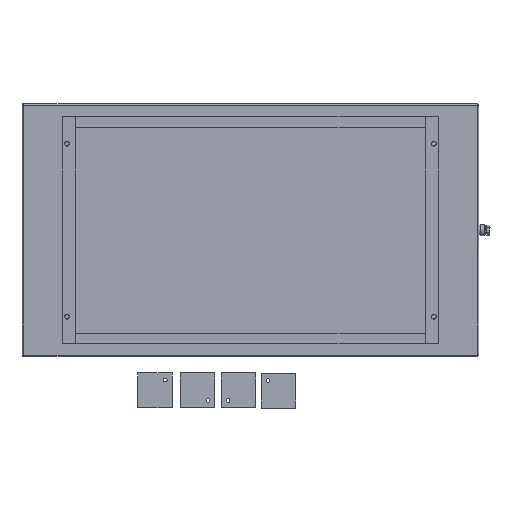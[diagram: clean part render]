
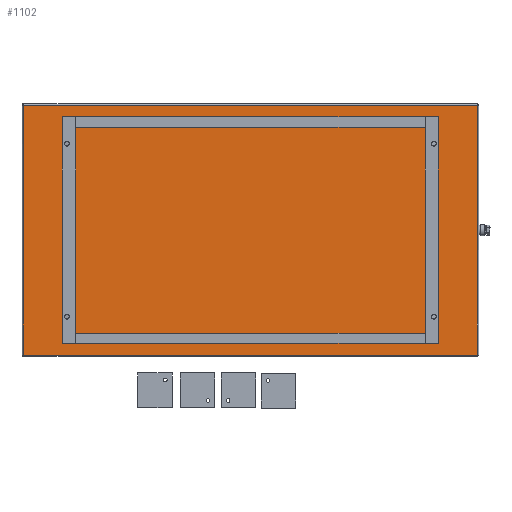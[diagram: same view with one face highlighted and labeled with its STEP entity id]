
A CAD part, front view. The second image highlights one B-rep face of the part: STEP entity #1102.
In plain terms, the highlighted planar face has unit normal (0, -1, 0).
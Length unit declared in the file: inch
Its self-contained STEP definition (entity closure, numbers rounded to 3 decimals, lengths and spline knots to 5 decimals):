
#22 = EDGE_LOOP ( 'NONE', ( #31, #2530, #3196, #3775 ) ) ;
#31 = ORIENTED_EDGE ( 'NONE', *, *, #2178, .T. ) ;
#107 = PLANE ( 'NONE',  #2375 ) ;
#176 = CARTESIAN_POINT ( 'NONE',  ( 65.803, -0.1345, -0.197 ) ) ;
#187 = DIRECTION ( 'NONE',  ( 1., 0., 0. ) ) ;
#192 = VERTEX_POINT ( 'NONE', #176 ) ;
#288 = VECTOR ( 'NONE', #741, 39.37008 ) ;
#393 = CARTESIAN_POINT ( 'NONE',  ( 65.86543, -0.1345, -0.197 ) ) ;
#730 = EDGE_CURVE ( 'NONE', #2878, #3544, #1269, .T. ) ;
#741 = DIRECTION ( 'NONE',  ( 0., 0., 1. ) ) ;
#812 = CARTESIAN_POINT ( 'NONE',  ( 0.13457, -0.1345, -36.303 ) ) ;
#969 = LINE ( 'NONE', #1904, #288 ) ;
#970 = VECTOR ( 'NONE', #2986, 39.37008 ) ;
#1102 = ADVANCED_FACE ( 'NONE', ( #1838 ), #107, .T. ) ;
#1269 = LINE ( 'NONE', #2449, #1371 ) ;
#1283 = DIRECTION ( 'NONE',  ( 0., -1., 0. ) ) ;
#1371 = VECTOR ( 'NONE', #2151, 39.37008 ) ;
#1385 = LINE ( 'NONE', #812, #3054 ) ;
#1423 = VERTEX_POINT ( 'NONE', #2499 ) ;
#1457 = CARTESIAN_POINT ( 'NONE',  ( 0.197, -0.1345, -36.303 ) ) ;
#1838 = FACE_OUTER_BOUND ( 'NONE', #22, .T. ) ;
#1872 = EDGE_CURVE ( 'NONE', #192, #2878, #2380, .T. ) ;
#1904 = CARTESIAN_POINT ( 'NONE',  ( 65.803, -0.1345, -36.36543 ) ) ;
#2118 = CARTESIAN_POINT ( 'NONE',  ( 0.197, -0.1345, -0.197 ) ) ;
#2151 = DIRECTION ( 'NONE',  ( 0., 0., -1. ) ) ;
#2178 = EDGE_CURVE ( 'NONE', #3544, #1423, #1385, .T. ) ;
#2375 = AXIS2_PLACEMENT_3D ( 'NONE', #2828, #1283, #2990 ) ;
#2380 = LINE ( 'NONE', #393, #970 ) ;
#2449 = CARTESIAN_POINT ( 'NONE',  ( 0.197, -0.1345, -0.13457 ) ) ;
#2499 = CARTESIAN_POINT ( 'NONE',  ( 65.803, -0.1345, -36.303 ) ) ;
#2530 = ORIENTED_EDGE ( 'NONE', *, *, #2807, .T. ) ;
#2807 = EDGE_CURVE ( 'NONE', #1423, #192, #969, .T. ) ;
#2828 = CARTESIAN_POINT ( 'NONE',  ( 0., -0.1345, 0. ) ) ;
#2878 = VERTEX_POINT ( 'NONE', #2118 ) ;
#2986 = DIRECTION ( 'NONE',  ( -1., 0., 0. ) ) ;
#2990 = DIRECTION ( 'NONE',  ( 0., 0., -1. ) ) ;
#3054 = VECTOR ( 'NONE', #187, 39.37008 ) ;
#3196 = ORIENTED_EDGE ( 'NONE', *, *, #1872, .T. ) ;
#3544 = VERTEX_POINT ( 'NONE', #1457 ) ;
#3775 = ORIENTED_EDGE ( 'NONE', *, *, #730, .T. ) ;
